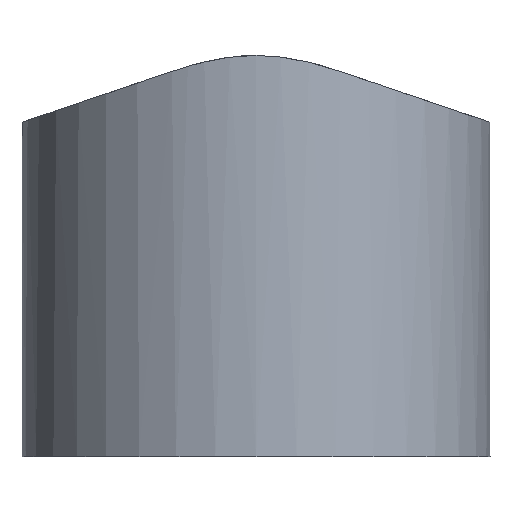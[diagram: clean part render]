
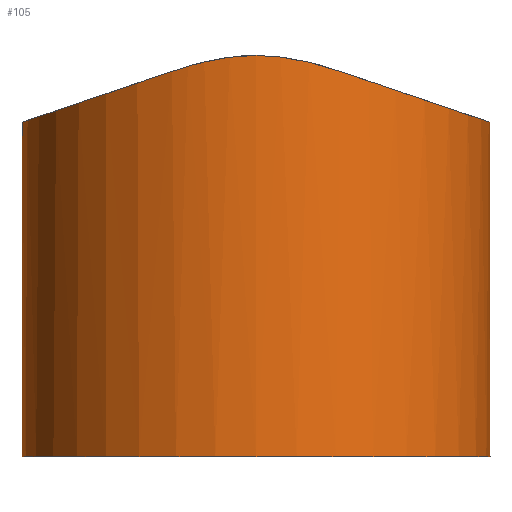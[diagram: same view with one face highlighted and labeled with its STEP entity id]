
A CAD part, left-side view. The second image highlights one B-rep face of the part: STEP entity #105.
In plain terms, the highlighted cylindrical face has radius 4.445 mm (diameter 8.89 mm), a full revolution.
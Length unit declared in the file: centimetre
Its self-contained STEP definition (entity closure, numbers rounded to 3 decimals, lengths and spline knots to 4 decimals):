
#34=CIRCLE('',#112,0.4445);
#35=CYLINDRICAL_SURFACE('',#111,0.4445);
#36=B_SPLINE_CURVE_WITH_KNOTS('',3,(#150,#151,#152,#153,#154,#155),.UNSPECIFIED.,
 .F.,.U.,(4,2,4),(0.,0.0829,0.1657),.UNSPECIFIED.);
#37=B_SPLINE_CURVE_WITH_KNOTS('',3,(#157,#158,#159,#160,#161,#162),.UNSPECIFIED.,
 .F.,.U.,(4,2,4),(0.,0.0419,0.1671),.UNSPECIFIED.);
#38=B_SPLINE_CURVE_WITH_KNOTS('',3,(#177,#178,#179,#180,#181,#182),.UNSPECIFIED.,
 .F.,.U.,(4,2,4),(0.,0.0834,0.1669),.UNSPECIFIED.);
#39=B_SPLINE_CURVE_WITH_KNOTS('',3,(#183,#184,#185,#186,#187,#188),.UNSPECIFIED.,
 .F.,.U.,(4,2,4),(0.,0.0392,0.1944),.UNSPECIFIED.);
#48=VERTEX_POINT('',#130);
#49=VERTEX_POINT('',#131);
#50=VERTEX_POINT('',#135);
#51=VERTEX_POINT('',#136);
#52=VERTEX_POINT('',#156);
#53=VERTEX_POINT('',#163);
#54=VERTEX_POINT('',#191);
#55=ELLIPSE('',#108,0.4694,0.4445);
#56=ELLIPSE('',#110,0.4694,0.4445);
#57=EDGE_CURVE('',#48,#49,#55,.T.);
#59=EDGE_CURVE('',#50,#51,#56,.T.);
#61=EDGE_CURVE('',#51,#52,#36,.T.);
#62=EDGE_CURVE('',#53,#50,#37,.T.);
#64=EDGE_CURVE('',#52,#48,#38,.T.);
#65=EDGE_CURVE('',#49,#53,#39,.T.);
#66=EDGE_CURVE('',#54,#54,#34,.T.);
#79=ORIENTED_EDGE('',*,*,#59,.T.);
#80=ORIENTED_EDGE('',*,*,#61,.T.);
#81=ORIENTED_EDGE('',*,*,#64,.T.);
#82=ORIENTED_EDGE('',*,*,#57,.T.);
#83=ORIENTED_EDGE('',*,*,#65,.T.);
#84=ORIENTED_EDGE('',*,*,#62,.T.);
#85=ORIENTED_EDGE('',*,*,#66,.T.);
#91=EDGE_LOOP('',(#79,#80,#81,#82,#83,#84));
#92=EDGE_LOOP('',(#85));
#98=FACE_BOUND('',#91,.T.);
#99=FACE_BOUND('',#92,.T.);
#105=ADVANCED_FACE('',(#98,#99),#35,.T.);
#108=AXIS2_PLACEMENT_3D('',#129,#115,#116);
#110=AXIS2_PLACEMENT_3D('',#134,#119,#120);
#111=AXIS2_PLACEMENT_3D('',#189,#123,#124);
#112=AXIS2_PLACEMENT_3D('',#190,#125,#126);
#115=DIRECTION('',(0.,0.321,-0.947));
#116=DIRECTION('',(0.,0.445,0.151));
#119=DIRECTION('',(0.,-0.321,-0.947));
#120=DIRECTION('',(0.,0.445,-0.151));
#123=DIRECTION('',(0.,0.,1.));
#124=DIRECTION('',(0.445,0.,0.));
#125=DIRECTION('',(0.,0.,1.));
#126=DIRECTION('',(0.445,0.,0.));
#129=CARTESIAN_POINT('',(0.,0.,0.7859));
#130=CARTESIAN_POINT('',(0.4148,-0.1597,0.7317));
#131=CARTESIAN_POINT('',(-0.4148,-0.1597,0.7317));
#134=CARTESIAN_POINT('',(0.,0.,0.7859));
#135=CARTESIAN_POINT('',(-0.4148,0.1597,0.7317));
#136=CARTESIAN_POINT('',(0.4148,0.1597,0.7317));
#150=CARTESIAN_POINT('',(0.4148,0.1597,0.7317));
#151=CARTESIAN_POINT('',(0.4243,0.1351,0.74));
#152=CARTESIAN_POINT('',(0.4318,0.1091,0.7476));
#153=CARTESIAN_POINT('',(0.4419,0.0554,0.7586));
#154=CARTESIAN_POINT('',(0.4445,0.0278,0.762));
#155=CARTESIAN_POINT('',(0.4445,0.,0.762));
#156=CARTESIAN_POINT('',(0.4445,0.,0.762));
#157=CARTESIAN_POINT('',(-0.4445,0.,0.762));
#158=CARTESIAN_POINT('',(-0.4445,0.014,0.762));
#159=CARTESIAN_POINT('',(-0.4438,0.0279,0.7611));
#160=CARTESIAN_POINT('',(-0.4386,0.083,0.755));
#161=CARTESIAN_POINT('',(-0.4291,0.1227,0.7442));
#162=CARTESIAN_POINT('',(-0.4148,0.1597,0.7317));
#163=CARTESIAN_POINT('',(-0.4445,0.,0.762));
#177=CARTESIAN_POINT('',(0.4445,0.,0.762));
#178=CARTESIAN_POINT('',(0.4445,-0.0278,0.762));
#179=CARTESIAN_POINT('',(0.4419,-0.0554,0.7586));
#180=CARTESIAN_POINT('',(0.4318,-0.1091,0.7476));
#181=CARTESIAN_POINT('',(0.4243,-0.1351,0.74));
#182=CARTESIAN_POINT('',(0.4148,-0.1597,0.7317));
#183=CARTESIAN_POINT('',(-0.4148,-0.1597,0.7317));
#184=CARTESIAN_POINT('',(-0.4193,-0.1481,0.7356));
#185=CARTESIAN_POINT('',(-0.4233,-0.1362,0.7394));
#186=CARTESIAN_POINT('',(-0.4408,-0.0762,0.7565));
#187=CARTESIAN_POINT('',(-0.4445,-0.0347,0.762));
#188=CARTESIAN_POINT('',(-0.4445,0.,0.762));
#189=CARTESIAN_POINT('',(0.,0.,0.));
#190=CARTESIAN_POINT('',(0.,0.,0.));
#191=CARTESIAN_POINT('',(0.4445,0.,0.));
